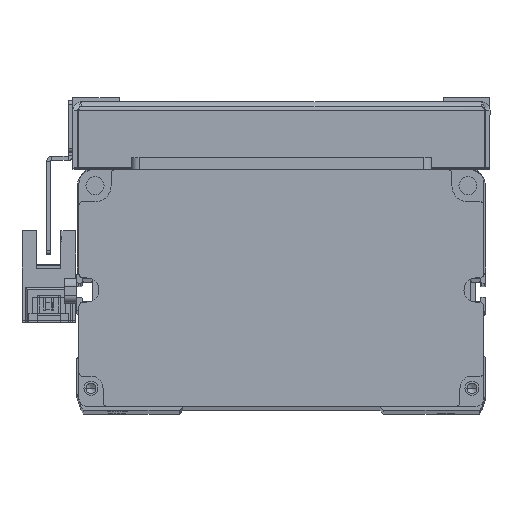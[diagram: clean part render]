
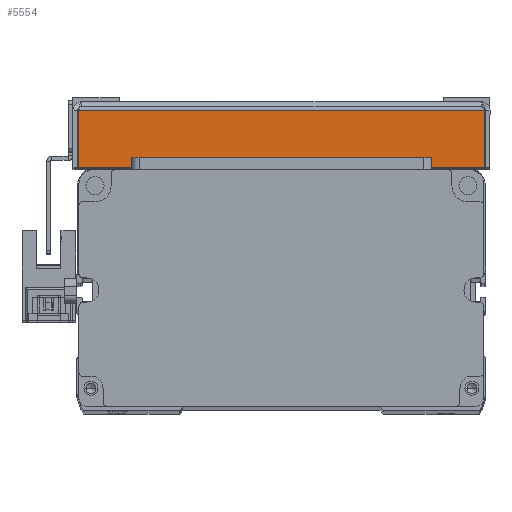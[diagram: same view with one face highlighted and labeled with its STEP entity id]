
A CAD part, top view. The second image highlights one B-rep face of the part: STEP entity #5554.
In plain terms, the highlighted planar face has unit normal (0, 0, 1) as drawn and (0, 1, 0) by its records, which use the part's own axes.
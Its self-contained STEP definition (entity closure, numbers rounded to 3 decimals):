
#10 = FACE_OUTER_BOUND ( 'NONE', #15980, .T. ) ;
#1030 = VERTEX_POINT ( 'NONE', #24916 ) ;
#1516 = EDGE_CURVE ( 'NONE', #6086, #11602, #11900, .T. ) ;
#1936 = EDGE_CURVE ( 'NONE', #1030, #33008, #10484, .T. ) ;
#2709 = ORIENTED_EDGE ( 'NONE', *, *, #1936, .F. ) ;
#3018 = VECTOR ( 'NONE', #30574, 1000. ) ;
#3249 = EDGE_CURVE ( 'NONE', #11602, #33008, #14953, .T. ) ;
#5554 = ADVANCED_FACE ( 'NONE', ( #10 ), #33913, .F. ) ;
#6086 = VERTEX_POINT ( 'NONE', #32641 ) ;
#6721 = DIRECTION ( 'NONE',  ( 0., 0., -1. ) ) ;
#7347 = DIRECTION ( 'NONE',  ( 0., 0., -1. ) ) ;
#8123 = EDGE_CURVE ( 'NONE', #6086, #1030, #12642, .T. ) ;
#10200 = DIRECTION ( 'NONE',  ( 0., 0., -1. ) ) ;
#10484 = LINE ( 'NONE', #13070, #20618 ) ;
#10708 = DIRECTION ( 'NONE',  ( 0., -1., 0. ) ) ;
#11602 = VERTEX_POINT ( 'NONE', #32664 ) ;
#11900 = LINE ( 'NONE', #30476, #29395 ) ;
#12642 = LINE ( 'NONE', #29250, #20108 ) ;
#13070 = CARTESIAN_POINT ( 'NONE',  ( -50.7, 85., 14.3 ) ) ;
#14881 = ORIENTED_EDGE ( 'NONE', *, *, #1516, .T. ) ;
#14953 = LINE ( 'NONE', #33481, #3018 ) ;
#15354 = AXIS2_PLACEMENT_3D ( 'NONE', #21023, #10708, #10200 ) ;
#15639 = CARTESIAN_POINT ( 'NONE',  ( -50.7, 85., 0. ) ) ;
#15980 = EDGE_LOOP ( 'NONE', ( #27716, #14881, #22884, #2709 ) ) ;
#20108 = VECTOR ( 'NONE', #20185, 1000. ) ;
#20185 = DIRECTION ( 'NONE',  ( -1., 0., 0. ) ) ;
#20618 = VECTOR ( 'NONE', #7347, 1000. ) ;
#21023 = CARTESIAN_POINT ( 'NONE',  ( 0., 85., 15.3 ) ) ;
#22884 = ORIENTED_EDGE ( 'NONE', *, *, #3249, .T. ) ;
#24916 = CARTESIAN_POINT ( 'NONE',  ( -50.7, 85., 14.3 ) ) ;
#27716 = ORIENTED_EDGE ( 'NONE', *, *, #8123, .F. ) ;
#29250 = CARTESIAN_POINT ( 'NONE',  ( -52., 85., 14.3 ) ) ;
#29395 = VECTOR ( 'NONE', #6721, 1000. ) ;
#30476 = CARTESIAN_POINT ( 'NONE',  ( 50.7, 85., 14.3 ) ) ;
#30574 = DIRECTION ( 'NONE',  ( -1., 0., 0. ) ) ;
#32641 = CARTESIAN_POINT ( 'NONE',  ( 50.7, 85., 14.3 ) ) ;
#32664 = CARTESIAN_POINT ( 'NONE',  ( 50.7, 85., 0. ) ) ;
#33008 = VERTEX_POINT ( 'NONE', #15639 ) ;
#33481 = CARTESIAN_POINT ( 'NONE',  ( 0., 85., 0. ) ) ;
#33913 = PLANE ( 'NONE',  #15354 ) ;
